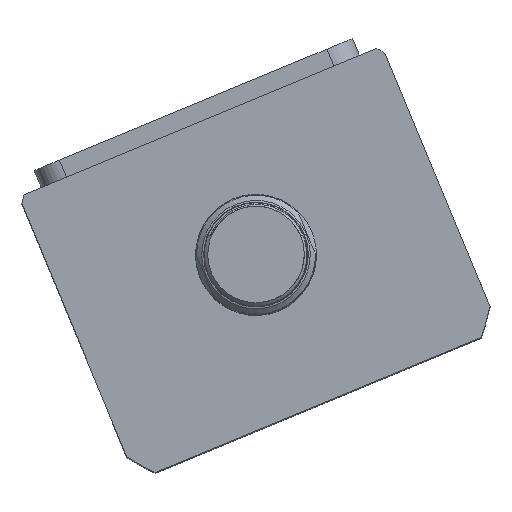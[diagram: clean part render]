
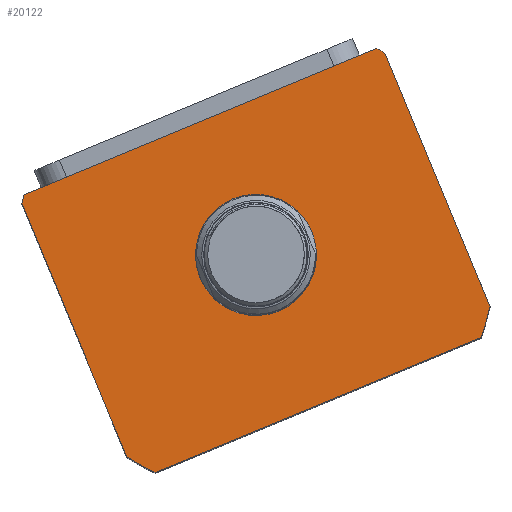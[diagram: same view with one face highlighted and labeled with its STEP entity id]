
A CAD part, top view. The second image highlights one B-rep face of the part: STEP entity #20122.
In plain terms, the highlighted planar face has unit normal (0, 0, 1) as drawn and (0, 0, -1) by its records, which use the part's own axes.
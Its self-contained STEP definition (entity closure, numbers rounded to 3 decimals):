
#108 = DIRECTION ( 'NONE',  ( 0., 1., 0. ) ) ;
#405 = CARTESIAN_POINT ( 'NONE',  ( 0., -59.497, 0. ) ) ;
#851 = DIRECTION ( 'NONE',  ( 0., 0., 1. ) ) ;
#1473 = DIRECTION ( 'NONE',  ( 0., 0., 1. ) ) ;
#1577 = LINE ( 'NONE', #24101, #6666 ) ;
#1866 = AXIS2_PLACEMENT_3D ( 'NONE', #24621, #11698, #26710 ) ;
#2613 = DIRECTION ( 'NONE',  ( 1., 0., 0. ) ) ;
#2888 = DIRECTION ( 'NONE',  ( 0., -1., 0. ) ) ;
#3190 = ORIENTED_EDGE ( 'NONE', *, *, #25066, .F. ) ;
#4340 = EDGE_LOOP ( 'NONE', ( #7275, #5221, #3190, #6917, #12005, #4887, #21422, #20062 ) ) ;
#4887 = ORIENTED_EDGE ( 'NONE', *, *, #5486, .F. ) ;
#4988 = EDGE_CURVE ( 'NONE', #13286, #13707, #23548, .T. ) ;
#5221 = ORIENTED_EDGE ( 'NONE', *, *, #16409, .F. ) ;
#5486 = EDGE_CURVE ( 'NONE', #25856, #27122, #25579, .T. ) ;
#6072 = CARTESIAN_POINT ( 'NONE',  ( -57., -17.497, 0. ) ) ;
#6134 = DIRECTION ( 'NONE',  ( 0., 0., 1. ) ) ;
#6364 = DIRECTION ( 'NONE',  ( -1., 0., 0. ) ) ;
#6666 = VECTOR ( 'NONE', #17752, 1000. ) ;
#6917 = ORIENTED_EDGE ( 'NONE', *, *, #10504, .F. ) ;
#7275 = ORIENTED_EDGE ( 'NONE', *, *, #10248, .F. ) ;
#7333 = LINE ( 'NONE', #6072, #23908 ) ;
#7354 = VECTOR ( 'NONE', #108, 1000. ) ;
#7540 = EDGE_CURVE ( 'NONE', #27122, #18817, #21478, .T. ) ;
#8276 = DIRECTION ( 'NONE',  ( 0., 0., 1. ) ) ;
#8722 = CIRCLE ( 'NONE', #15091, 69.5 ) ;
#8929 = EDGE_CURVE ( 'NONE', #13707, #13286, #18847, .T. ) ;
#10248 = EDGE_CURVE ( 'NONE', #21593, #14819, #8722, .T. ) ;
#10489 = CARTESIAN_POINT ( 'NONE',  ( 57., -99.262, 0. ) ) ;
#10504 = EDGE_CURVE ( 'NONE', #18817, #25164, #1577, .T. ) ;
#11502 = EDGE_CURVE ( 'NONE', #19104, #25856, #16128, .T. ) ;
#11698 = DIRECTION ( 'NONE',  ( 0., 0., 1. ) ) ;
#12005 = ORIENTED_EDGE ( 'NONE', *, *, #7540, .F. ) ;
#12301 = CARTESIAN_POINT ( 'NONE',  ( 17.5, -59.497, 0. ) ) ;
#12577 = FACE_BOUND ( 'NONE', #23242, .T. ) ;
#12691 = AXIS2_PLACEMENT_3D ( 'NONE', #13833, #851, #15995 ) ;
#12712 = EDGE_CURVE ( 'NONE', #14819, #19104, #7333, .T. ) ;
#12880 = CARTESIAN_POINT ( 'NONE',  ( 0., -59.497, 0. ) ) ;
#13248 = FACE_OUTER_BOUND ( 'NONE', #4340, .T. ) ;
#13286 = VERTEX_POINT ( 'NONE', #12301 ) ;
#13447 = CARTESIAN_POINT ( 'NONE',  ( -57., -19.732, 0. ) ) ;
#13579 = CARTESIAN_POINT ( 'NONE',  ( -55.374, -17.497, 0. ) ) ;
#13600 = AXIS2_PLACEMENT_3D ( 'NONE', #25193, #1473, #16609 ) ;
#13707 = VERTEX_POINT ( 'NONE', #14505 ) ;
#13833 = CARTESIAN_POINT ( 'NONE',  ( 0., -59.497, 0. ) ) ;
#13933 = CARTESIAN_POINT ( 'NONE',  ( -57., -99.262, 0. ) ) ;
#14093 = VECTOR ( 'NONE', #2888, 1000. ) ;
#14505 = CARTESIAN_POINT ( 'NONE',  ( -17.5, -59.497, 0. ) ) ;
#14819 = VERTEX_POINT ( 'NONE', #16653 ) ;
#15037 = DIRECTION ( 'NONE',  ( 1., 0., 0. ) ) ;
#15091 = AXIS2_PLACEMENT_3D ( 'NONE', #12880, #27850, #15037 ) ;
#15287 = CARTESIAN_POINT ( 'NONE',  ( 57., -17.497, 0. ) ) ;
#15567 = DIRECTION ( 'NONE',  ( 0., 0., 1. ) ) ;
#15995 = DIRECTION ( 'NONE',  ( 1., 0., 0. ) ) ;
#16128 = CIRCLE ( 'NONE', #1866, 69.5 ) ;
#16400 = ORIENTED_EDGE ( 'NONE', *, *, #4988, .T. ) ;
#16409 = EDGE_CURVE ( 'NONE', #24590, #21593, #22526, .T. ) ;
#16609 = DIRECTION ( 'NONE',  ( 1., 0., 0. ) ) ;
#16653 = CARTESIAN_POINT ( 'NONE',  ( 55.374, -17.497, 0. ) ) ;
#17752 = DIRECTION ( 'NONE',  ( 1., 0., 0. ) ) ;
#18817 = VERTEX_POINT ( 'NONE', #25917 ) ;
#18847 = CIRCLE ( 'NONE', #25487, 17.5 ) ;
#18912 = AXIS2_PLACEMENT_3D ( 'NONE', #19058, #6134, #21229 ) ;
#19058 = CARTESIAN_POINT ( 'NONE',  ( 0., -59.497, 0. ) ) ;
#19104 = VERTEX_POINT ( 'NONE', #13579 ) ;
#20062 = ORIENTED_EDGE ( 'NONE', *, *, #12712, .F. ) ;
#20090 = ORIENTED_EDGE ( 'NONE', *, *, #8929, .T. ) ;
#20122 = ADVANCED_FACE ( 'NONE', ( #12577, #13248 ), #27278, .F. ) ;
#20157 = CARTESIAN_POINT ( 'NONE',  ( -57., -17.497, 0. ) ) ;
#20314 = CARTESIAN_POINT ( 'NONE',  ( 51.198, -106.497, 0. ) ) ;
#21174 = CARTESIAN_POINT ( 'NONE',  ( 0., -59.497, 0. ) ) ;
#21229 = DIRECTION ( 'NONE',  ( 1., 0., 0. ) ) ;
#21311 = AXIS2_PLACEMENT_3D ( 'NONE', #21174, #8276, #23366 ) ;
#21422 = ORIENTED_EDGE ( 'NONE', *, *, #11502, .F. ) ;
#21478 = CIRCLE ( 'NONE', #21311, 69.5 ) ;
#21593 = VERTEX_POINT ( 'NONE', #25588 ) ;
#22526 = LINE ( 'NONE', #15287, #7354 ) ;
#23242 = EDGE_LOOP ( 'NONE', ( #16400, #20090 ) ) ;
#23366 = DIRECTION ( 'NONE',  ( 1., 0., 0. ) ) ;
#23548 = CIRCLE ( 'NONE', #18912, 17.5 ) ;
#23908 = VECTOR ( 'NONE', #6364, 1000. ) ;
#24101 = CARTESIAN_POINT ( 'NONE',  ( -57., -106.497, 0. ) ) ;
#24590 = VERTEX_POINT ( 'NONE', #10489 ) ;
#24621 = CARTESIAN_POINT ( 'NONE',  ( 0., -59.497, 0. ) ) ;
#25066 = EDGE_CURVE ( 'NONE', #25164, #24590, #25452, .T. ) ;
#25164 = VERTEX_POINT ( 'NONE', #20314 ) ;
#25193 = CARTESIAN_POINT ( 'NONE',  ( 0., 0., 0. ) ) ;
#25452 = CIRCLE ( 'NONE', #12691, 69.5 ) ;
#25487 = AXIS2_PLACEMENT_3D ( 'NONE', #405, #15567, #2613 ) ;
#25579 = LINE ( 'NONE', #20157, #14093 ) ;
#25588 = CARTESIAN_POINT ( 'NONE',  ( 57., -19.732, 0. ) ) ;
#25856 = VERTEX_POINT ( 'NONE', #13447 ) ;
#25917 = CARTESIAN_POINT ( 'NONE',  ( -51.198, -106.497, 0. ) ) ;
#26710 = DIRECTION ( 'NONE',  ( 1., 0., 0. ) ) ;
#27122 = VERTEX_POINT ( 'NONE', #13933 ) ;
#27278 = PLANE ( 'NONE',  #13600 ) ;
#27850 = DIRECTION ( 'NONE',  ( 0., 0., 1. ) ) ;
